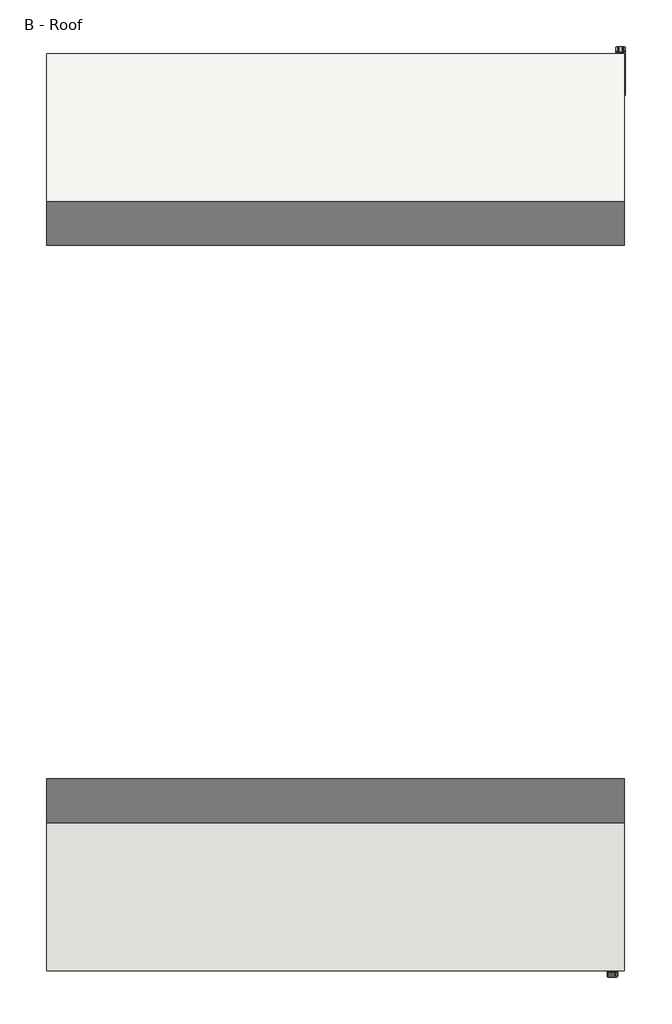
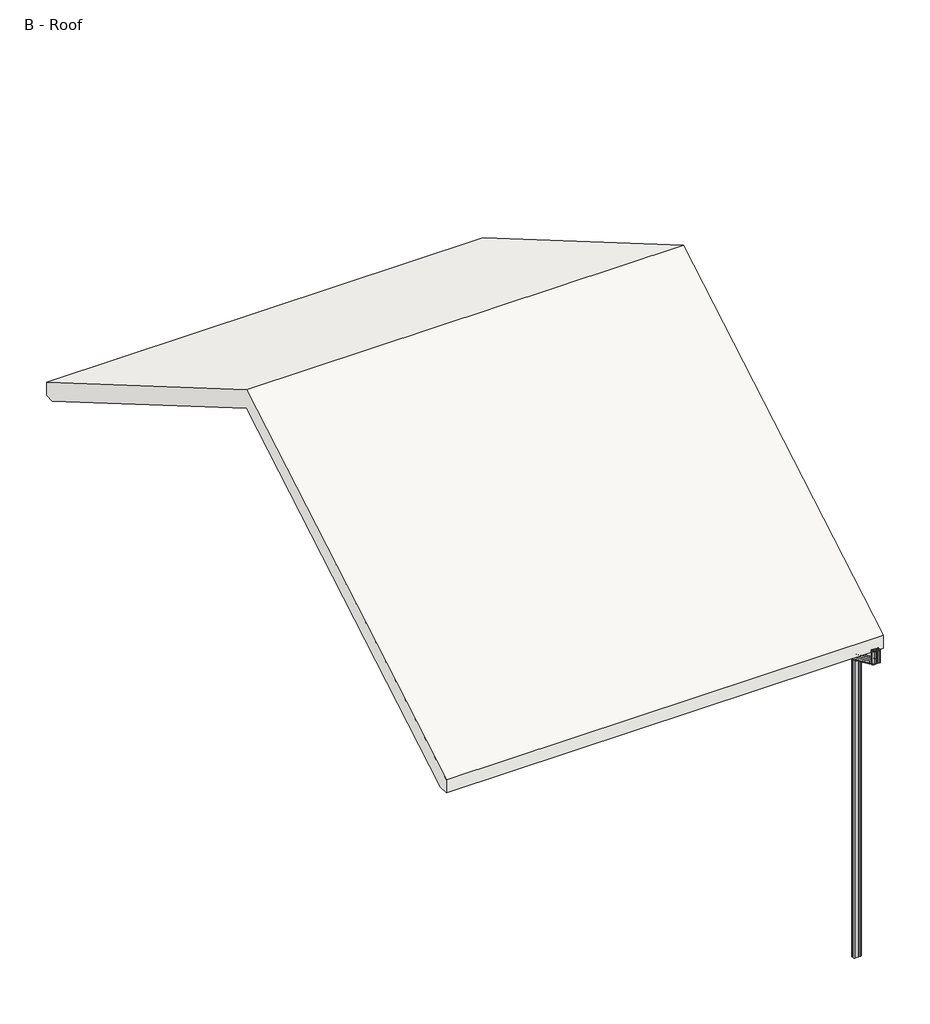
# One storey: 4 proxies, 1 roof.
"""IFC4 building model written with IfcOpenShell, lengths in millimetres."""

from ifc_helpers import new_model, si_unit, frame, origin, place, context, project, spatial, polyline, outline, extrude, transform, mapped, element, save
from components import downspout_parametric_5251_18_830a5993, downspout_parametric_5251_20_f7a235c1

model = new_model("IFC4")

# Units and contexts
model_context = context("Model", 3, world=origin())
ifc_project = project(units=[si_unit("LENGTHUNIT", "METRE", prefix="MILLI")], contexts=[model_context])

# Site, building, storey
site = spatial("IfcSite", under=ifc_project)
building = spatial("IfcBuilding", under=site)
storey = spatial("IfcBuildingStorey", under=building, Name="B - Roof", Elevation=6737.35)

# Proxies
placement = place(None, origin())
downspout_parametric_5251_18_shape = downspout_parametric_5251_18_830a5993(model_context)
element("IfcBuildingElementProxy", 1, Name="Downspout_-_Parametric_5251 : 18'", ObjectType="Downspout_-_Parametric_5251 : 18'", at=placement, inside=storey, context=model_context, shape_type="MappedRepresentation", body=[
    mapped(downspout_parametric_5251_18_shape, transform((3218.3370514, 4843.8210538, 6537.325), x_axis=(-1.0, 0.0, 0.0), y_axis=(0.0, -1.0, 0.0), z_axis=(0.0, 0.0, 1.0))),
])
element("IfcBuildingElementProxy", 2, Name="Downspout_-_Parametric_5251 : 18'", ObjectType="Downspout_-_Parametric_5251 : 18'", at=placement, inside=storey, context=model_context, shape_type="MappedRepresentation", body=[
    mapped(downspout_parametric_5251_18_shape, transform((3186.5870514, 4843.8210538, 6540.5), x_axis=(-1.0, 0.0, 0.0), y_axis=(0.0, -1.0, 0.0), z_axis=(0.0, 0.0, 1.0))),
])
downspout_parametric_5251_20_shape = downspout_parametric_5251_20_f7a235c1(model_context)
element("IfcBuildingElementProxy", 3, Name="Downspout_-_Parametric_5251 : 20'", ObjectType="Downspout_-_Parametric_5251 : 20'", at=placement, inside=storey, context=model_context, shape_type="MappedRepresentation", body=[
    mapped(downspout_parametric_5251_20_shape, transform((3069.1120514, -8018.1039462, 6540.5), x_axis=(1.0, 0.0, 0.0), y_axis=(0.0, 1.0, 0.0), z_axis=(0.0, 0.0, 1.0))),
])
element("IfcBuildingElementProxy", 4, Name="Downspout_-_Parametric_5251 : 20'", ObjectType="Downspout_-_Parametric_5251 : 20'", at=placement, inside=storey, context=model_context, shape_type="MappedRepresentation", body=[
    mapped(downspout_parametric_5251_20_shape, transform((3110.3870514, -8018.1039462, 6540.5), x_axis=(1.0, 0.0, 0.0), y_axis=(0.0, 1.0, 0.0), z_axis=(0.0, 0.0, 1.0))),
])

# Roof
element("IfcRoof", 5, ObjectType="Wood Rafter 12\" - Asphalt Shingle", at=placement, inside=storey, context=model_context, shape_type="SweptSolid", body=[
    extrude(outline(polyline([(-7964.1289462, 6741.9694956), (-1590.3164462, 10460.0267873), (4783.4960538, 6741.9694956), (4783.4960538, 6487.9694956), (4601.4054899, 6487.9694956), (-1590.3164462, 10099.8072917), (-7782.0383823, 6487.9694956), (-7964.1289462, 6487.9694956), (-7964.1289462, 6741.9694956)])), frame((-4782.6629486, 0.0, 0.0), z_axis=(1.0, 0.0, 0.0), x_axis=(0.0, 1.0, 0.0)), (0.0, 0.0, 1.0), 8039.1),
])

save(model, "model.ifc")
